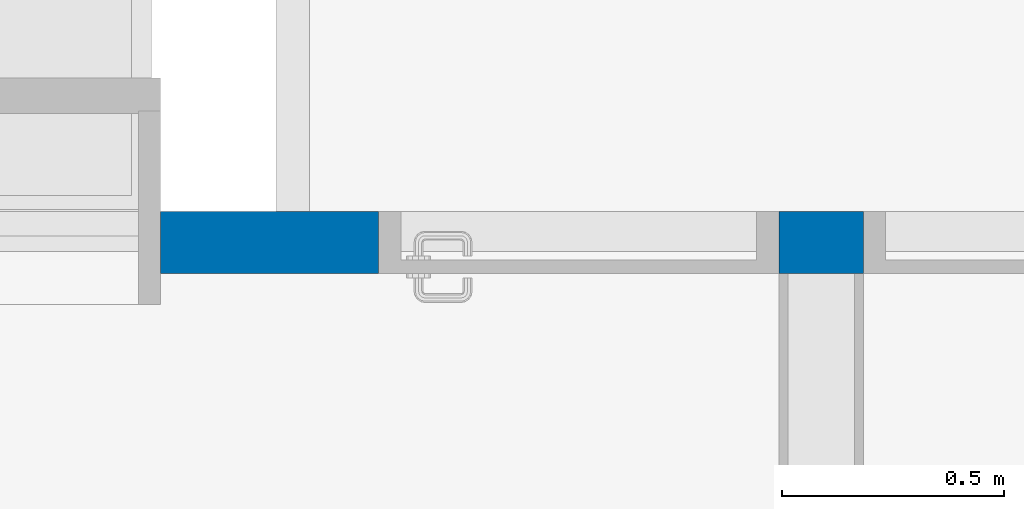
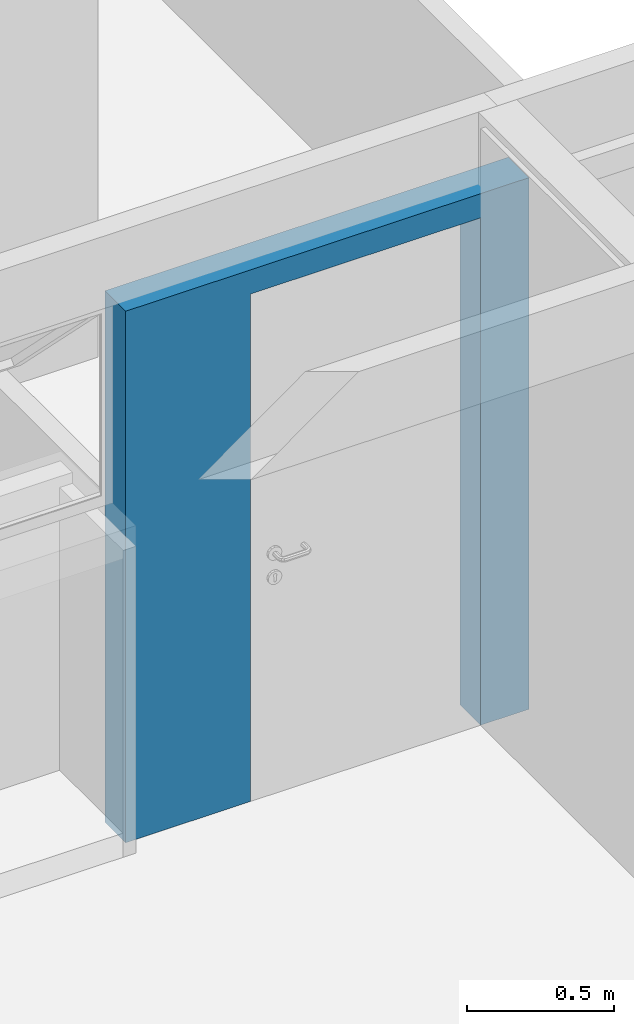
# One storey, part 27 of 40: 1 wall, 1 opening.
"""IFC4 building model written with IfcOpenShell, lengths in millimetres."""

from ifc_helpers import new_model, entity, si_unit, converted_unit, derived_unit, direction, frame, origin_with_axes, origin_2d_with_axis, place, context, subcontext, project, spatial, line, indexed_curve, rectangle, outline, extrude, material, layer, layer_set, layer_usage, type_object, element, save


model = new_model("IFC4")

# Units and contexts
model_context = context("Model", 3, precision=0.01, world=origin_with_axes(), true_north=direction((0.0, 1.0)))
body_context = subcontext(model_context, "Body", "Model", "MODEL_VIEW")
ifc_project = project(units=[si_unit("LENGTHUNIT", "METRE", prefix="MILLI"), si_unit("AREAUNIT", "SQUARE_METRE"), si_unit("VOLUMEUNIT", "CUBIC_METRE"), converted_unit("PLANEANGLEUNIT", "DEGREE", entity("IfcPlaneAngleMeasure", 0.0174532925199), si_unit("PLANEANGLEUNIT", "RADIAN"), dimensions=[0, 0, 0, 0, 0, 0, 0]), converted_unit("TIMEUNIT", "Year", entity("IfcTimeMeasure", 31556926.0), si_unit("TIMEUNIT", "SECOND"), dimensions=[0, 0, 1, 0, 0, 0, 0]), si_unit("MASSUNIT", "GRAM", prefix="KILO"), si_unit("THERMODYNAMICTEMPERATUREUNIT", "DEGREE_CELSIUS"), si_unit("LUMINOUSINTENSITYUNIT", "LUMEN"), si_unit("ENERGYUNIT", "JOULE", prefix="MEGA"), derived_unit("THERMALCONDUCTANCEUNIT", [(si_unit("POWERUNIT", "WATT"), 1), (si_unit("LENGTHUNIT", "METRE"), -1), (si_unit("THERMODYNAMICTEMPERATUREUNIT", "KELVIN"), -1)]), derived_unit("SPECIFICHEATCAPACITYUNIT", [(si_unit("ENERGYUNIT", "JOULE"), 1), (si_unit("MASSUNIT", "GRAM", prefix="KILO"), -1), (si_unit("THERMODYNAMICTEMPERATUREUNIT", "KELVIN"), -1)]), derived_unit("MASSDENSITYUNIT", [(si_unit("MASSUNIT", "GRAM", prefix="KILO"), 1), (si_unit("VOLUMEUNIT", "CUBIC_METRE"), -1)])], contexts=[model_context])

# Site, building, storey
site_placement = place(None, origin_with_axes())
site = spatial("IfcSite", under=ifc_project, at=site_placement, Name="Local", CompositionType="ELEMENT")
building_placement = place(site_placement, origin_with_axes())
building = spatial("IfcBuilding", under=site, at=building_placement, Name="Construção", CompositionType="ELEMENT")
storey_placement = place(building_placement, frame((0.0, 0.0, 5300.0), z_axis=(0.0, 0.0, 1.0), x_axis=(1.0, 0.0, 0.0)))
storey = spatial("IfcBuildingStorey", under=building, at=storey_placement, Name="Terceiro Pavimento", CompositionType="ELEMENT", Elevation=5300.0)

# Wall, opening
ifc_material = material(Name="GENÉRICO - VEDAÇÃO EXTERNA")
ifc_layer = layer(ifc_material, 140.0, ventilated="UNKNOWN", Name="GENÉRICO - VEDAÇÃO EXTERNA")
ifc_layer_set = layer_set([ifc_layer], Name="GENÉRICO - VEDAÇÃO EXTERNA 140")
ifc_layer_usage = layer_usage(ifc_layer_set, "AXIS2", "NEGATIVE", 0.0)
wall_type = type_object("IfcWallType", Name="GENÉRICO - VEDAÇÃO EXTERNA 140", PredefinedType="NOTDEFINED")
wall_placement = place(storey_placement, frame((7480.0, 8125.0, 0.0), z_axis=(0.0, 0.0, 1.0), x_axis=(-1.0, 0.0, 0.0)))
wall = element("IfcWall", 1, at=wall_placement, inside=storey, type_object=wall_type, material=ifc_layer_usage, Name="APTO9-PAREDE-004", PredefinedType="NOTDEFINED", context=body_context, shape_type="SweptSolid", body=[
    extrude(outline(indexed_curve([(0.0, -140.0), (1580.0, -140.0), (1580.0, 0.0), (0.0, 0.0)], segments=[line(1, 2, 3, 4, 1)])), origin_with_axes(), (0.0, 0.0, 1.0), 2200.0),
])
opening_placement = place(wall_placement, frame((640.0, 0.0, 0.0), z_axis=(0.0, 0.0, 1.0), x_axis=(1.0, 0.0, 0.0)))
element("IfcOpeningElement", 2, at=opening_placement, cuts=wall, Name="APTO9-PORTA-004", context=body_context, shape_type="SweptSolid", body=[
    extrude(rectangle(XDim=900.0, YDim=2100.0, at=origin_2d_with_axis()), frame((0.0, 140.0, 1050.0), z_axis=(0.0, 1.0, 0.0), x_axis=(-1.0, 0.0, 0.0)), (0.0, 0.0, -1.0), 420.0),
])

save(model, "model.ifc")
